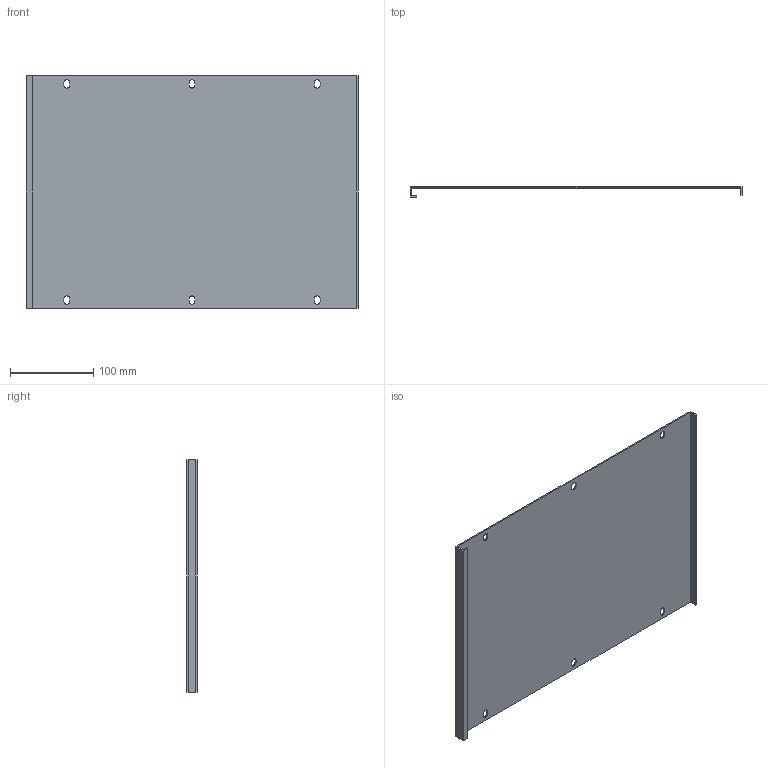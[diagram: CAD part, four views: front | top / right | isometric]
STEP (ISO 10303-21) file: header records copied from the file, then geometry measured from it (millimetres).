
FILE_DESCRIPTION (( 'STEP AP214' ), '1' );
FILE_NAME ('FO-00-PVS-040-040 Ïëàñòðîí ãëóõîé âíóòðåííèé 400õ400.STEP', '2025-08-26T09:54:07', ( '' ), ( '' ), 'SwSTEP 2.0', 'SolidWorks 2023', '' );
FILE_SCHEMA (( 'AUTOMOTIVE_DESIGN' ));
Length unit declared in the file: millimetre
Products named in the file (1): FO-00-PVS-040-040 Пластрон глухой внутренний 400х400
Bounding box: 398 x 12.5 x 279 mm (x, y, z)
Volume: 176908.6 mm3; surface area: 238239.1 mm2
Topology: 1 solids, 1 shells, 52 faces, 150 edges, 100 vertices
Faces by surface type: plane 34, cylinder 18
Entity records: 1757 total; most frequent: CARTESIAN_POINT 303, ORIENTED_EDGE 300, DIRECTION 292, EDGE_CURVE 150, LINE 114, VECTOR 114, VERTEX_POINT 100, AXIS2_PLACEMENT_3D 89
